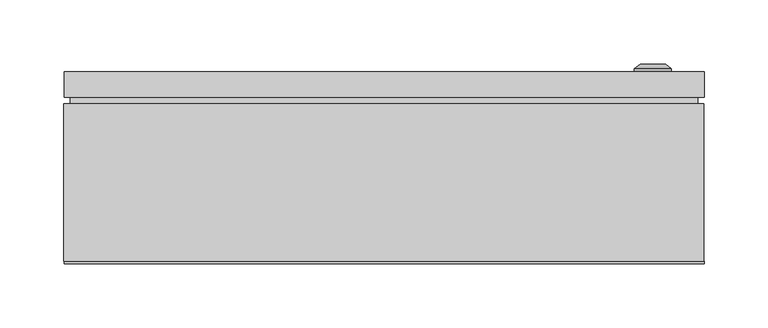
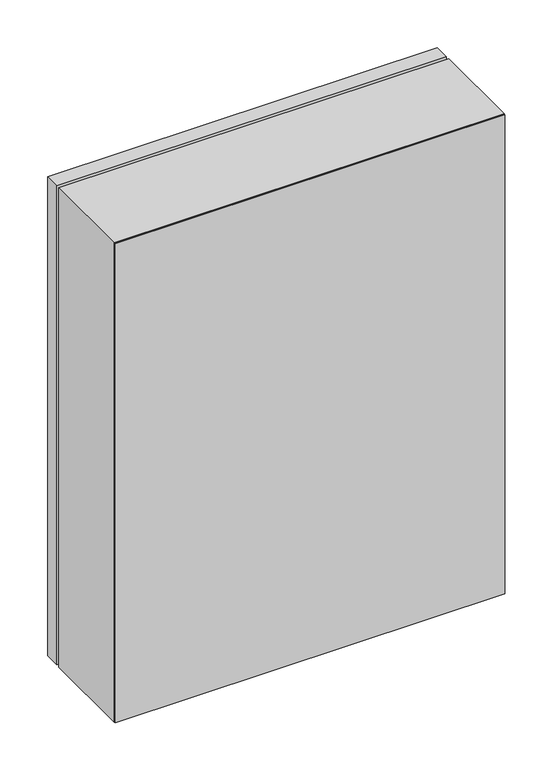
"""IFC4 building model written with IfcOpenShell, lengths in millimetres: proxy geometry, ЩМП_IP65 : ЩМП-3-1_650х500х150."""

from ifc_helpers import new_model, si_unit, frame, origin, origin_with_axes, place, context, project, spatial, polyline, circle_curve, outline, extrude, source, transform, mapped, element, save
from ifc_brep_helpers import plane_surface, cylinder_surface, revolved_surface, advanced_brep


def electrical_equipment_0eafc789(model_context):
    return source(origin(), model_context, "Body", "SolidModel", [
        extrude(outline(polyline([(245.0, 125.0), (-245.0, 125.0), (-245.0, 130.0), (245.0, 130.0), (245.0, 125.0)])), frame((0.0, 0.0, 5.0), z_axis=(0.0, 0.0, 1.0), x_axis=(1.0, 0.0, 0.0)), (0.0, 0.0, 1.0), 640.0),
        extrude(outline(polyline([(250.0, 130.0), (-250.0, 130.0), (-250.0, 150.0), (250.0, 150.0), (250.0, 130.0)])), origin_with_axes(), (0.0, 0.0, 1.0), 650.0),
        advanced_brep(
        [(195.669873, 150.0, 325.0), (224.330127, 150.0, 325.0), (210.0, 150.0, 325.0), (195.669873, 152.366592, 325.0), (224.330127, 152.366592, 325.0), (200.0, 156.0, 325.0), (220.0, 156.0, 325.0), (208.1080471, 156.0, 325.0), (211.8919529, 156.0, 325.0), (208.1080471, 154.9822294, 325.0), (211.8919529, 154.9822294, 325.0), (210.0, 154.9822294, 325.0)],
        [
            (0, 1, circle_curve(frame((210.0, 150.0, 325.0), z_axis=(0.0, -1.0, 0.0), x_axis=(1.0, 0.0, 0.0)), 14.330127)),
            (1, 2),
            (2, 0),
            (1, 0, circle_curve(frame((210.0, 150.0, 325.0), z_axis=(0.0, -1.0, 0.0), x_axis=(1.0, 0.0, 0.0)), 14.330127)),
            (3, 4, circle_curve(frame((210.0, 152.366592, 325.0), z_axis=(0.0, -1.0, 0.0), x_axis=(1.0, 0.0, 0.0)), 14.330127)),
            (4, 1),
            (0, 3),
            (4, 3, circle_curve(frame((210.0, 152.366592, 325.0), z_axis=(0.0, -1.0, 0.0), x_axis=(1.0, 0.0, 0.0)), 14.330127)),
            (5, 6, circle_curve(frame((210.0, 156.0, 325.0), z_axis=(0.0, -1.0, 0.0), x_axis=(1.0, 0.0, 0.0)), 10.0)),
            (6, 4),
            (3, 5),
            (6, 5, circle_curve(frame((210.0, 156.0, 325.0), z_axis=(0.0, -1.0, 0.0), x_axis=(1.0, 0.0, 0.0)), 10.0)),
            (7, 8, circle_curve(frame((210.0, 156.0, 325.0), z_axis=(0.0, -1.0, 0.0), x_axis=(1.0, 0.0, 0.0)), 1.8919529)),
            (8, 6),
            (5, 7),
            (8, 7, circle_curve(frame((210.0, 156.0, 325.0), z_axis=(0.0, -1.0, 0.0), x_axis=(1.0, 0.0, 0.0)), 1.8919529)),
            (9, 10, circle_curve(frame((210.0, 154.9822294, 325.0), z_axis=(0.0, -1.0, 0.0), x_axis=(1.0, 0.0, 0.0)), 1.8919529)),
            (10, 8),
            (7, 9),
            (10, 9, circle_curve(frame((210.0, 154.9822294, 325.0), z_axis=(0.0, -1.0, 0.0), x_axis=(1.0, 0.0, 0.0)), 1.8919529)),
            (11, 10),
            (9, 11),
        ],
        [
            plane_surface(frame((210.0, 150.0, 325.0), z_axis=(0.0, -1.0, 0.0), x_axis=(1.0, 0.0, 0.0))),
            cylinder_surface(frame((210.0, 163.1348851, 325.0), z_axis=(0.0, 1.0, 0.0), x_axis=(1.0, 0.0, 0.0)), 14.330127),
            revolved_surface(polyline([(224.330127, 152.366592, 325.0), (220.0, 156.0, 325.0)]), (210.0, 163.1348851, 325.0), (0.0, 1.0, 0.0)),
            plane_surface(frame((210.0, 156.0, 325.0), z_axis=(0.0, 1.0, 0.0), x_axis=(1.0, 0.0, 0.0))),
            revolved_surface(polyline([(211.8919529, 156.0, 325.0), (211.8919529, 154.9822294, 325.0)]), (210.0, 163.1348851, 325.0), (0.0, 1.0, 0.0)),
            plane_surface(frame((210.0, 154.9822294, 325.0), z_axis=(0.0, 1.0, 0.0), x_axis=(1.0, 0.0, 0.0))),
        ],
        [
            (0, [[1, 2, 3]]),
            (0, [[4, -3, -2]]),
            (1, [[5, 6, -1, 7]]),
            (1, [[8, -7, -4, -6]]),
            (2, [[9, 10, -5, 11]]),
            (2, [[12, -11, -8, -10]]),
            (3, [[13, 14, -9, 15]]),
            (3, [[16, -15, -12, -14]]),
            (4, [[17, 18, -13, 19]]),
            (4, [[20, -19, -16, -18]]),
            (5, [[21, -17, 22]]),
            (5, [[-22, -20, -21]]),
        ],
    ),
        extrude(outline(polyline([(650.0, -250.0033905), (0.0, -250.0033905), (0.0, 249.9966095), (650.0, 249.9966095), (650.0, -250.0033905)]), holes=[polyline([(615.0, -220.0033905), (615.0, 219.9966095), (35.0, 219.9966095), (35.0, -220.0033905), (615.0, -220.0033905)])]), frame((0.0, 2.0, 0.0), z_axis=(0.0, 1.0, 0.0), x_axis=(0.0, 0.0, 1.0)), (0.0, 0.0, 1.0), 123.0),
        extrude(outline(polyline([(250.0, 0.0), (-250.0, 0.0), (-250.0, 2.0), (250.0, 2.0), (250.0, 0.0)])), origin_with_axes(), (0.0, 0.0, 1.0), 650.0),
    ])


if __name__ == "__main__":
    model = new_model("IFC4")
    model_context = context("Model", 3, world=origin())
    ifc_project = project(units=[si_unit("LENGTHUNIT", "METRE", prefix="MILLI")], contexts=[model_context])
    site = spatial("IfcSite", under=ifc_project)
    building = spatial("IfcBuilding", under=site)
    placement = place(None, origin())
    electrical_equipment_shape = electrical_equipment_0eafc789(model_context)
    element("IfcBuildingElementProxy", 1, Name="ЩМП_IP65 : ЩМП-3-1_650х500х150", ObjectType="ЩМП_IP65 : ЩМП-3-1_650х500х150", at=placement, inside=building, context=model_context, shape_type="MappedRepresentation", body=[
        mapped(electrical_equipment_shape, transform((0.0, 0.0, 0.0), x_axis=(1.0, 0.0, 0.0), y_axis=(0.0, 1.0, 0.0), z_axis=(0.0, 0.0, 1.0))),
    ])
    save(model, "model.ifc")
